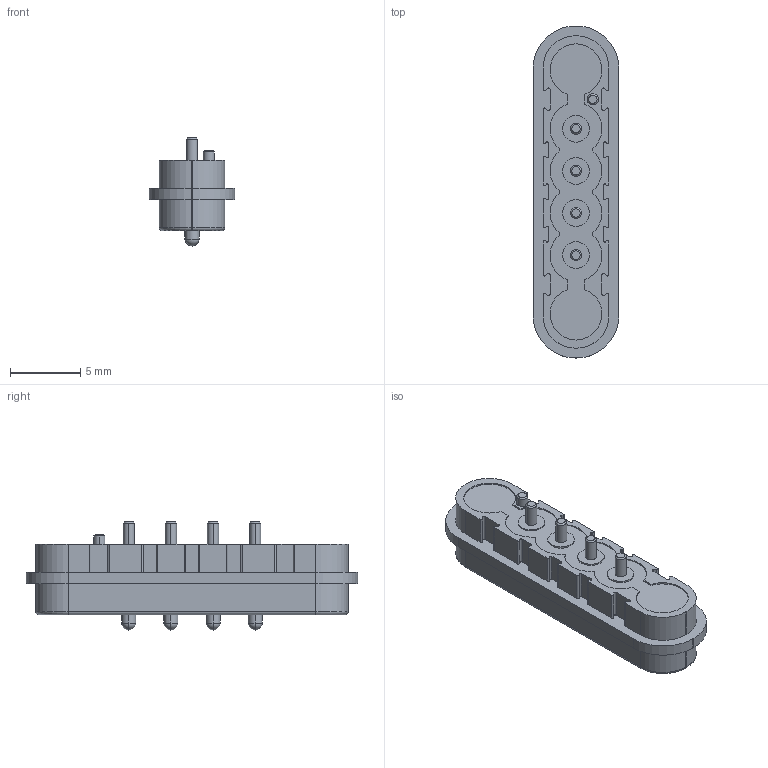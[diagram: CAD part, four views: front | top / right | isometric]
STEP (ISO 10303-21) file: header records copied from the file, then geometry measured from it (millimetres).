
FILE_DESCRIPTION((''),'2;1');
FILE_NAME('303D-L236M040_C_4_ASM','2026-01-08T',('fros.liao'),(''),'CREO PARAMETRIC BY PTC INC, 2018360','CREO PARAMETRIC BY PTC INC, 2018360','');
FILE_SCHEMA(('CONFIG_CONTROL_DESIGN'));
Length unit declared in the file: millimetre
Products named in the file (6): POGOPIN-0507_1_1; HSG-4P-0507_-MALE_1_1; MAGNET-0507_S_1_1; GLUE-4P-0507_1_1; MAGNET-0507_N_1_1; 303D-L236M040_C_4_ASM
Assembly tree (8 placements, depth 2):
  303D-L236M040_C_4_ASM
    POGOPIN-0507_1_1  x4
    HSG-4P-0507_-MALE_1_1
    MAGNET-0507_S_1_1
    GLUE-4P-0507_1_1
    MAGNET-0507_N_1_1
Bounding box: 6.1 x 23.65 x 7.7 mm (x, y, z)
Volume: 519.2 mm3; surface area: 1198.5 mm2
Topology: 8 solids, 8 shells, 383 faces, 939 edges, 586 vertices
Faces by surface type: cylinder 199, plane 102, cone 58, torus 16, sphere 8
Entity records: 8804 total; most frequent: DIRECTION 1655, CARTESIAN_POINT 1476, ORIENTED_EDGE 1442, EDGE_CURVE 721, AXIS2_PLACEMENT_3D 642, VERTEX_POINT 463, VECTOR 371, LINE 371
